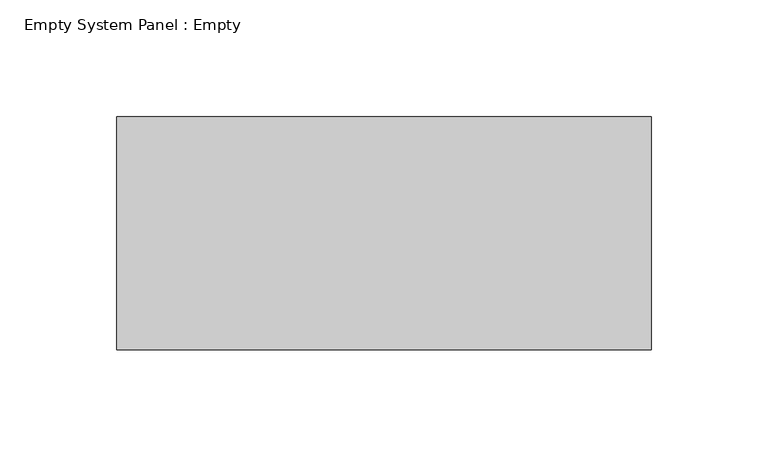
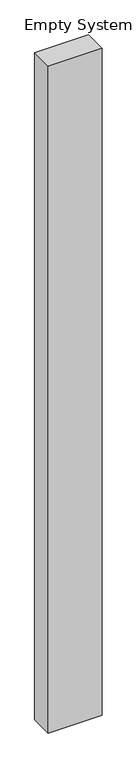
"""IFC4 building model written with IfcOpenShell, lengths in millimetres: plate geometry, Empty System Panel : Empty."""

from ifc_helpers import new_model, si_unit, origin, origin_with_axes, place, context, project, spatial, polyline, outline, extrude, source, transform, mapped, element, save


def empty_system_panel_empty_7e7673ae(model_context):
    return source(origin(), model_context, "Body", "SweptSolid", [
        extrude(outline(polyline([(114.6446609, -50.0), (-114.6446609, -50.0), (-114.6446609, 50.0), (114.6446609, 50.0), (114.6446609, -50.0)])), origin_with_axes(), (0.0, 0.0, 1.0), 3000.0),
    ])


if __name__ == "__main__":
    model = new_model("IFC4")
    model_context = context("Model", 3, world=origin())
    ifc_project = project(units=[si_unit("LENGTHUNIT", "METRE", prefix="MILLI")], contexts=[model_context])
    site = spatial("IfcSite", under=ifc_project)
    building = spatial("IfcBuilding", under=site)
    placement = place(None, origin())
    empty_system_panel_empty_shape = empty_system_panel_empty_7e7673ae(model_context)
    element("IfcPlate", 1, ObjectType="Empty System Panel : Empty", at=placement, inside=building, context=model_context, shape_type="MappedRepresentation", body=[
        mapped(empty_system_panel_empty_shape, transform((0.0, 0.0, 0.0), x_axis=(1.0, 0.0, 0.0), y_axis=(0.0, 1.0, 0.0), z_axis=(0.0, 0.0, 1.0))),
    ])
    save(model, "model.ifc")
